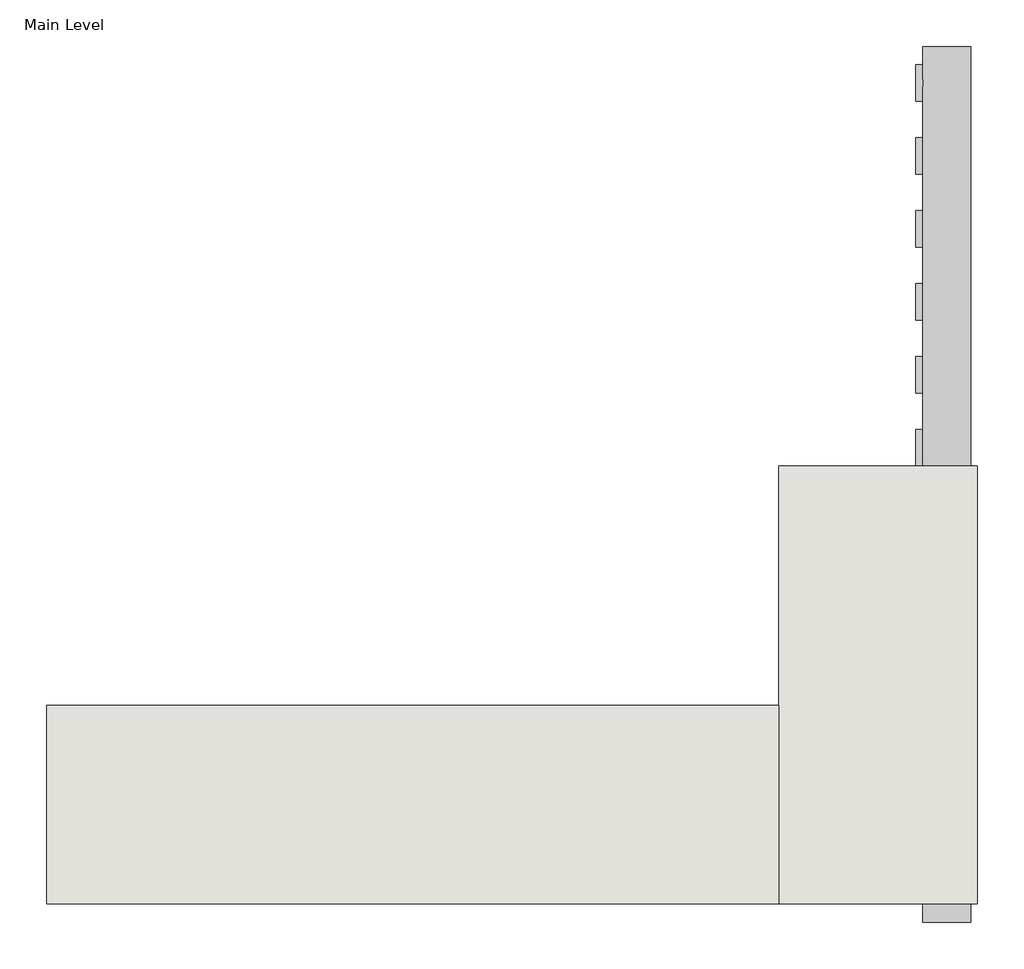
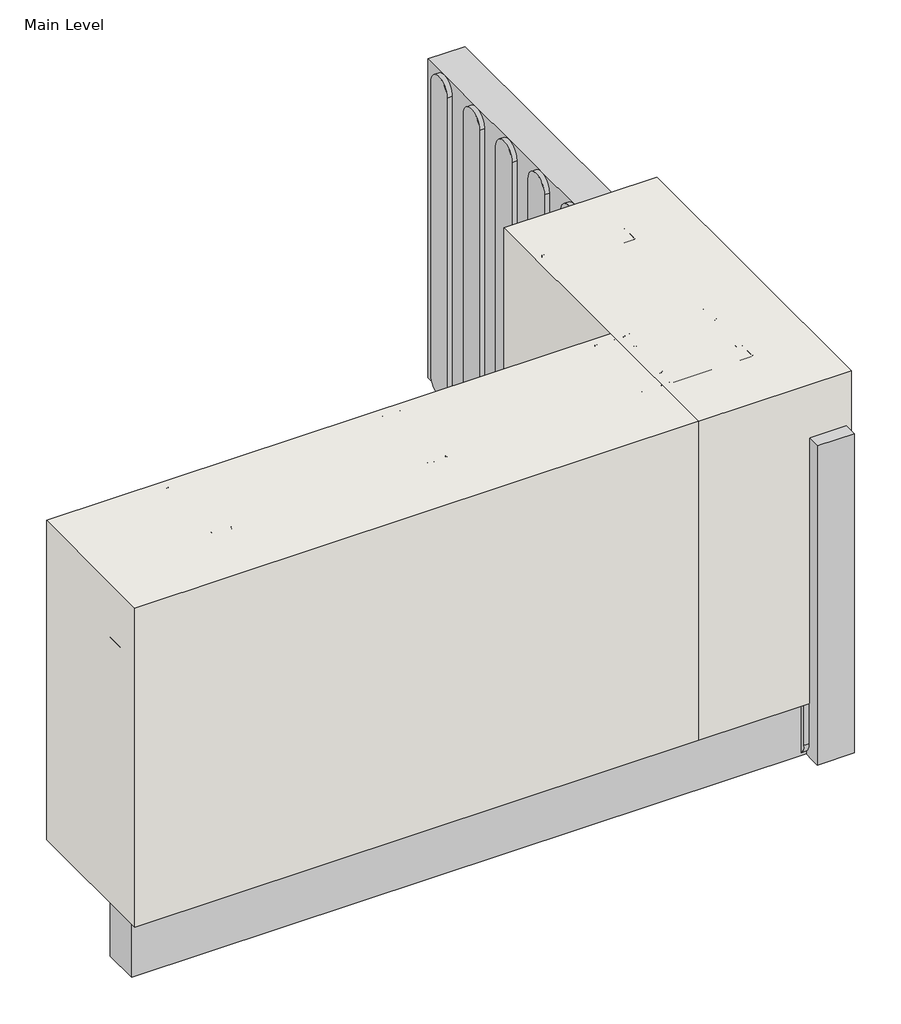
# One storey, incomplete: 30 proxies, 2 walls.
"""IFC4 building model written with IfcOpenShell, lengths in millimetres."""

from ifc_helpers import new_model, si_unit, origin, origin_with_axes, place, context, project, spatial, polyline, outline, extrude, faceted_brep, transform, mapped, element, save
from components import generic_models_0ed8512b, generic_models_91a65217, generic_models_599f1aef, generic_models_008e5ede, generic_models_03ec6e0e, proxy_50213ae0, proxy_63d6b373, proxy_d4c17246

model = new_model("IFC4")

# Units and contexts
model_context = context("Model", 3, world=origin())
ifc_project = project(units=[si_unit("LENGTHUNIT", "METRE", prefix="MILLI")], contexts=[model_context])

# Site, building, storey
site = spatial("IfcSite", under=ifc_project)
building = spatial("IfcBuilding", under=site)
storey = spatial("IfcBuildingStorey", under=building, Name="Main Level", Elevation=0.0)

# Proxies
placement = place(None, origin())
generic_models_shape = generic_models_0ed8512b(model_context)
element("IfcBuildingElementProxy", 1, Name="Durabond Generic Model Insulation Adhesive Flat : Durabond Generic Model Insulation Adhesive Flat", ObjectType="Durabond Generic Model Insulation Adhesive Flat : Durabond Generic Model Insulation Adhesive Flat", at=placement, inside=storey, context=model_context, shape_type="MappedRepresentation", body=[
    mapped(generic_models_shape, transform((26266.1289273, 627.6316297, 0.0), x_axis=(1.0, 0.0, 0.0), y_axis=(0.0, 1.0, 0.0), z_axis=(0.0, 0.0, 1.0))),
])
element("IfcBuildingElementProxy", 2, Name="Durabond Generic Model Insulation Adhesive Flat : Durabond Generic Model Insulation Adhesive Flat", ObjectType="Durabond Generic Model Insulation Adhesive Flat : Durabond Generic Model Insulation Adhesive Flat", at=placement, inside=storey, context=model_context, shape_type="MappedRepresentation", body=[
    mapped(generic_models_shape, transform((26367.7289273, 627.6316297, 0.0), x_axis=(1.0, 0.0, 0.0), y_axis=(0.0, 1.0, 0.0), z_axis=(0.0, 0.0, 1.0))),
])
element("IfcBuildingElementProxy", 3, Name="Durabond Generic Model Insulation Adhesive Flat : Durabond Generic Model Insulation Adhesive Flat", ObjectType="Durabond Generic Model Insulation Adhesive Flat : Durabond Generic Model Insulation Adhesive Flat", at=placement, inside=storey, context=model_context, shape_type="MappedRepresentation", body=[
    mapped(generic_models_shape, transform((26469.3289273, 627.6316297, 0.0), x_axis=(1.0, 0.0, 0.0), y_axis=(0.0, 1.0, 0.0), z_axis=(0.0, 0.0, 1.0))),
])
element("IfcBuildingElementProxy", 4, Name="Durabond Generic Model Insulation Adhesive Flat : Durabond Generic Model Insulation Adhesive Flat", ObjectType="Durabond Generic Model Insulation Adhesive Flat : Durabond Generic Model Insulation Adhesive Flat", at=placement, inside=storey, context=model_context, shape_type="MappedRepresentation", body=[
    mapped(generic_models_shape, transform((26570.9289273, 627.6316297, 0.0), x_axis=(1.0, 0.0, 0.0), y_axis=(0.0, 1.0, 0.0), z_axis=(0.0, 0.0, 1.0))),
])
element("IfcBuildingElementProxy", 5, Name="Durabond Generic Model Insulation Adhesive Flat : Durabond Generic Model Insulation Adhesive Flat", ObjectType="Durabond Generic Model Insulation Adhesive Flat : Durabond Generic Model Insulation Adhesive Flat", at=placement, inside=storey, context=model_context, shape_type="MappedRepresentation", body=[
    mapped(generic_models_shape, transform((26672.5289273, 627.6316297, 0.0), x_axis=(1.0, 0.0, 0.0), y_axis=(0.0, 1.0, 0.0), z_axis=(0.0, 0.0, 1.0))),
])
element("IfcBuildingElementProxy", 6, Name="Durabond Generic Model Insulation Adhesive Flat : Durabond Generic Model Insulation Adhesive Flat", ObjectType="Durabond Generic Model Insulation Adhesive Flat : Durabond Generic Model Insulation Adhesive Flat", at=placement, inside=storey, context=model_context, shape_type="MappedRepresentation", body=[
    mapped(generic_models_shape, transform((26774.1289273, 627.6316297, 0.0), x_axis=(1.0, 0.0, 0.0), y_axis=(0.0, 1.0, 0.0), z_axis=(0.0, 0.0, 1.0))),
])
element("IfcBuildingElementProxy", 7, Name="Durabond Generic Model Insulation Adhesive Flat : Durabond Generic Model Insulation Adhesive Flat", ObjectType="Durabond Generic Model Insulation Adhesive Flat : Durabond Generic Model Insulation Adhesive Flat", at=placement, inside=storey, context=model_context, shape_type="MappedRepresentation", body=[
    mapped(generic_models_shape, transform((26875.7289273, 627.6316297, 0.0), x_axis=(1.0, 0.0, 0.0), y_axis=(0.0, 1.0, 0.0), z_axis=(0.0, 0.0, 1.0))),
])
element("IfcBuildingElementProxy", 8, Name="Durabond Generic Model Insulation Adhesive Flat : Durabond Generic Model Insulation Adhesive Flat", ObjectType="Durabond Generic Model Insulation Adhesive Flat : Durabond Generic Model Insulation Adhesive Flat", at=placement, inside=storey, context=model_context, shape_type="MappedRepresentation", body=[
    mapped(generic_models_shape, transform((26977.3289273, 627.6316297, 0.0), x_axis=(1.0, 0.0, 0.0), y_axis=(0.0, 1.0, 0.0), z_axis=(0.0, 0.0, 1.0))),
])
element("IfcBuildingElementProxy", 9, Name="Durabond Generic Model Insulation Adhesive Flat : Durabond Generic Model Insulation Adhesive Flat", ObjectType="Durabond Generic Model Insulation Adhesive Flat : Durabond Generic Model Insulation Adhesive Flat", at=placement, inside=storey, context=model_context, shape_type="MappedRepresentation", body=[
    mapped(generic_models_shape, transform((27078.9289273, 627.6316297, 0.0), x_axis=(1.0, 0.0, 0.0), y_axis=(0.0, 1.0, 0.0), z_axis=(0.0, 0.0, 1.0))),
])
element("IfcBuildingElementProxy", 10, Name="Durabond Generic Model Insulation Adhesive Flat : Durabond Generic Model Insulation Adhesive Flat", ObjectType="Durabond Generic Model Insulation Adhesive Flat : Durabond Generic Model Insulation Adhesive Flat", at=placement, inside=storey, context=model_context, shape_type="MappedRepresentation", body=[
    mapped(generic_models_shape, transform((27180.5289273, 627.6316297, 0.0), x_axis=(1.0, 0.0, 0.0), y_axis=(0.0, 1.0, 0.0), z_axis=(0.0, 0.0, 1.0))),
])
element("IfcBuildingElementProxy", 11, Name="Durabond Generic Model Insulation Adhesive Flat : Durabond Generic Model Insulation Adhesive Flat", ObjectType="Durabond Generic Model Insulation Adhesive Flat : Durabond Generic Model Insulation Adhesive Flat", at=placement, inside=storey, context=model_context, shape_type="MappedRepresentation", body=[
    mapped(generic_models_shape, transform((27282.1289273, 627.6316297, 0.0), x_axis=(1.0, 0.0, 0.0), y_axis=(0.0, 1.0, 0.0), z_axis=(0.0, 0.0, 1.0))),
])
element("IfcBuildingElementProxy", 12, Name="Durabond Generic Model Insulation Adhesive Flat : Durabond Generic Model Insulation Adhesive Flat", ObjectType="Durabond Generic Model Insulation Adhesive Flat : Durabond Generic Model Insulation Adhesive Flat", at=placement, inside=storey, context=model_context, shape_type="MappedRepresentation", body=[
    mapped(generic_models_shape, transform((27383.7289273, 627.6316297, 0.0), x_axis=(1.0, 0.0, 0.0), y_axis=(0.0, 1.0, 0.0), z_axis=(0.0, 0.0, 1.0))),
])
generic_models_2_shape = generic_models_91a65217(model_context)
element("IfcBuildingElementProxy", 13, Name="Durabond Generic Model Insulation Adhesive Flat : Durabond Generic Model Insulation Adhesive Flat", ObjectType="Durabond Generic Model Insulation Adhesive Flat : Durabond Generic Model Insulation Adhesive Flat", at=placement, inside=storey, context=model_context, shape_type="MappedRepresentation", body=[
    mapped(generic_models_2_shape, transform((27421.8289273, 1072.1316297, 0.0), x_axis=(0.0, -1.0, 0.0), y_axis=(1.0, 0.0, 0.0), z_axis=(0.0, 0.0, 1.0))),
])
element("IfcBuildingElementProxy", 14, Name="Durabond Generic Model Insulation Adhesive Flat : Durabond Generic Model Insulation Adhesive Flat", ObjectType="Durabond Generic Model Insulation Adhesive Flat : Durabond Generic Model Insulation Adhesive Flat", at=placement, inside=storey, context=model_context, shape_type="MappedRepresentation", body=[
    mapped(generic_models_2_shape, transform((27421.8289273, 970.5316297, 0.0), x_axis=(0.0, -1.0, 0.0), y_axis=(1.0, 0.0, 0.0), z_axis=(0.0, 0.0, 1.0))),
])
element("IfcBuildingElementProxy", 15, Name="Durabond Generic Model Insulation Adhesive Flat : Durabond Generic Model Insulation Adhesive Flat", ObjectType="Durabond Generic Model Insulation Adhesive Flat : Durabond Generic Model Insulation Adhesive Flat", at=placement, inside=storey, context=model_context, shape_type="MappedRepresentation", body=[
    mapped(generic_models_2_shape, transform((27421.8289273, 868.9316297, 0.0), x_axis=(0.0, -1.0, 0.0), y_axis=(1.0, 0.0, 0.0), z_axis=(0.0, 0.0, 1.0))),
])
element("IfcBuildingElementProxy", 16, Name="Durabond Generic Model Insulation Adhesive Flat : Durabond Generic Model Insulation Adhesive Flat", ObjectType="Durabond Generic Model Insulation Adhesive Flat : Durabond Generic Model Insulation Adhesive Flat", at=placement, inside=storey, context=model_context, shape_type="MappedRepresentation", body=[
    mapped(generic_models_2_shape, transform((27421.8289273, 767.3316297, 0.0), x_axis=(0.0, -1.0, 0.0), y_axis=(1.0, 0.0, 0.0), z_axis=(0.0, 0.0, 1.0))),
])
element("IfcBuildingElementProxy", 17, Name="Durabond Generic Model Insulation Adhesive Flat : Durabond Generic Model Insulation Adhesive Flat", ObjectType="Durabond Generic Model Insulation Adhesive Flat : Durabond Generic Model Insulation Adhesive Flat", at=placement, inside=storey, context=model_context, shape_type="MappedRepresentation", body=[
    mapped(generic_models_2_shape, transform((27421.8289273, 665.7316297, 0.0), x_axis=(0.0, -1.0, 0.0), y_axis=(1.0, 0.0, 0.0), z_axis=(0.0, 0.0, 1.0))),
])
generic_models_3_shape = generic_models_599f1aef(model_context)
element("IfcBuildingElementProxy", 18, Name="CRAi Generic Model Metal Stud Array : CRAi Generic Model Metal Stud Array", ObjectType="CRAi Generic Model Metal Stud Array : CRAi Generic Model Metal Stud Array", at=placement, inside=storey, context=model_context, shape_type="MappedRepresentation", body=[
    mapped(generic_models_3_shape, transform((27323.4039273, 853.0566297, 0.0), x_axis=(0.0, 1.0, 0.0), y_axis=(-1.0, 0.0, 0.0), z_axis=(0.0, 0.0, 1.0))),
])
generic_models_4_shape = generic_models_008e5ede(model_context)
element("IfcBuildingElementProxy", 19, Name="CRAi Generic Model Metal Stud Array : CRAi Generic Model Metal Stud Array", ObjectType="CRAi Generic Model Metal Stud Array : CRAi Generic Model Metal Stud Array", at=placement, inside=storey, context=model_context, shape_type="MappedRepresentation", body=[
    mapped(generic_models_4_shape, transform((26828.1039273, 726.0566297, 0.0), x_axis=(-1.0, 0.0, 0.0), y_axis=(0.0, -1.0, 0.0), z_axis=(0.0, 0.0, 1.0))),
])
generic_models_5_shape = generic_models_03ec6e0e(model_context)
element("IfcBuildingElementProxy", 20, Name="CRAi Generic Model Drywall Screw : CRAi Generic Model Drywall Screw", ObjectType="CRAi Generic Model Drywall Screw : CRAi Generic Model Drywall Screw", at=placement, inside=storey, context=model_context, shape_type="MappedRepresentation", body=[
    mapped(generic_models_5_shape, transform((27215.4539273, 633.9816297, 584.2), x_axis=(1.0, 0.0, 0.0), y_axis=(0.0, 0.0, 1.0), z_axis=(0.0, -1.0, 0.0))),
])
element("IfcBuildingElementProxy", 21, Name="CRAi Generic Model Drywall Screw : CRAi Generic Model Drywall Screw", ObjectType="CRAi Generic Model Drywall Screw : CRAi Generic Model Drywall Screw", at=placement, inside=storey, context=model_context, shape_type="MappedRepresentation", body=[
    mapped(generic_models_5_shape, transform((26828.1039273, 633.9816297, 584.2), x_axis=(1.0, 0.0, 0.0), y_axis=(0.0, 0.0, 1.0), z_axis=(0.0, -1.0, 0.0))),
])
element("IfcBuildingElementProxy", 22, Name="CRAi Generic Model Drywall Screw : CRAi Generic Model Drywall Screw", ObjectType="CRAi Generic Model Drywall Screw : CRAi Generic Model Drywall Screw", at=placement, inside=storey, context=model_context, shape_type="MappedRepresentation", body=[
    mapped(generic_models_5_shape, transform((26440.7539273, 633.9816297, 584.2), x_axis=(1.0, 0.0, 0.0), y_axis=(0.0, 0.0, 1.0), z_axis=(0.0, -1.0, 0.0))),
])
element("IfcBuildingElementProxy", 23, Name="CRAi Generic Model Drywall Screw : CRAi Generic Model Drywall Screw", ObjectType="CRAi Generic Model Drywall Screw : CRAi Generic Model Drywall Screw", at=placement, inside=storey, context=model_context, shape_type="MappedRepresentation", body=[
    mapped(generic_models_5_shape, transform((27415.4789273, 1037.2066297, 584.2), x_axis=(0.0, 1.0, 0.0), y_axis=(0.0, 0.0, 1.0), z_axis=(1.0, 0.0, 0.0))),
])
element("IfcBuildingElementProxy", 24, Name="CRAi Generic Model Drywall Screw : CRAi Generic Model Drywall Screw", ObjectType="CRAi Generic Model Drywall Screw : CRAi Generic Model Drywall Screw", at=placement, inside=storey, context=model_context, shape_type="MappedRepresentation", body=[
    mapped(generic_models_5_shape, transform((27415.4789273, 783.2066297, 584.2), x_axis=(0.0, 1.0, 0.0), y_axis=(0.0, 0.0, 1.0), z_axis=(1.0, 0.0, 0.0))),
])
element("IfcBuildingElementProxy", 25, Name="CRAi Generic Model Drywall Screw : CRAi Generic Model Drywall Screw", ObjectType="CRAi Generic Model Drywall Screw : CRAi Generic Model Drywall Screw", at=placement, inside=storey, context=model_context, shape_type="MappedRepresentation", body=[
    mapped(generic_models_5_shape, transform((27415.4789273, 668.9066297, 584.2), x_axis=(0.0, 1.0, 0.0), y_axis=(0.0, 0.0, 1.0), z_axis=(1.0, 0.0, 0.0))),
])
element("IfcBuildingElementProxy", 26, Name="CRAi Generic Model Drywall Screw : CRAi Generic Model Drywall Screw", ObjectType="CRAi Generic Model Drywall Screw : CRAi Generic Model Drywall Screw", at=placement, inside=storey, context=model_context, shape_type="MappedRepresentation", body=[
    mapped(generic_models_5_shape, transform((27380.5539273, 633.9816297, 584.2), x_axis=(1.0, 0.0, 0.0), y_axis=(0.0, 0.0, 1.0), z_axis=(0.0, -1.0, 0.0))),
])
proxy_shape = proxy_50213ae0(model_context)
element("IfcBuildingElementProxy", 27, Name="Durabond Generic Model Quantum Select Insulation Board : 3\"", ObjectType="Durabond Generic Model Quantum Select Insulation Board : 3\"", at=placement, inside=storey, context=model_context, shape_type="MappedRepresentation", body=[
    mapped(proxy_shape, transform((26824.9289273, 624.4566297, 203.2), x_axis=(1.0, 0.0, 0.0), y_axis=(0.0, 0.0, 1.0), z_axis=(0.0, -1.0, 0.0))),
])
element("IfcBuildingElementProxy", 28, Name="Durabond Generic Model Quantum Select Insulation Board : 3\"", ObjectType="Durabond Generic Model Quantum Select Insulation Board : 3\"", at=placement, inside=storey, context=model_context, shape_type="MappedRepresentation", body=[
    mapped(proxy_shape, transform((27425.0039273, 1122.9316297, 203.2), x_axis=(0.0, 1.0, 0.0), y_axis=(0.0, 0.0, 1.0), z_axis=(1.0, 0.0, 0.0))),
])
proxy_2_shape = proxy_63d6b373(model_context)
element("IfcBuildingElementProxy", 29, Name="Durabond Generic Model Corner 90 Membrane : 4\" Barrier Seam Tape", ObjectType="Durabond Generic Model Corner 90 Membrane : 4\" Barrier Seam Tape", at=placement, inside=storey, context=model_context, shape_type="MappedRepresentation", body=[
    mapped(proxy_2_shape, transform((27415.4789273, 633.9816297, 0.0), x_axis=(1.0, 0.0, 0.0), y_axis=(0.0, 1.0, 0.0), z_axis=(0.0, 0.0, 1.0))),
])
proxy_3_shape = proxy_d4c17246(model_context)
element("IfcBuildingElementProxy", 30, Name="CRAi Generic Model Metal Stud : Metal Framing Stud - 1\" x 3.5\"", ObjectType="CRAi Generic Model Metal Stud : Metal Framing Stud - 1\" x 3.5\"", at=placement, inside=storey, context=model_context, shape_type="MappedRepresentation", body=[
    mapped(proxy_3_shape, transform((27323.4039273, 783.2066297, 0.0), x_axis=(0.0, 1.0, 0.0), y_axis=(-1.0, 0.0, 0.0), z_axis=(0.0, 0.0, 1.0))),
])

# Walls
element("IfcWall", 31, ObjectType="189mm (7.5”) EIFS Field Applied on Mtl. Stud Layer - 50mm Grooved Insulation Board Metal Stud Wall", at=placement, inside=storey, context=model_context, shape_type="SweptSolid", body=[
    extrude(outline(polyline([(27234.5039273, 538.7316297), (26215.3289273, 538.7316297), (26215.3289273, 814.9566297), (27234.5039273, 814.9566297), (27234.5039273, 538.7316297)])), origin_with_axes(), (0.0, 0.0, 1.0), 609.6),
])
element("IfcWall", 32, ObjectType="189mm (7.5”) EIFS Field Applied on Mtl. Stud Layer - 50mm Grooved Insulation Board Metal Stud Wall", at=placement, inside=storey, context=model_context, shape_type="Brep", body=[
    faceted_brep([(27510.7289273, 538.7316297, 0.0), (27510.7289273, 1148.3316297, 0.0), (27510.7289273, 1148.3316297, 609.6), (27510.7289273, 538.7316297, 609.6), (27234.5039273, 538.7316297, 0.0), (27234.5039273, 538.7316297, 609.6), (27234.5039273, 814.9566297, 609.6), (27234.5039273, 1148.3316297, 609.6), (27234.5039273, 1148.3316297, 0.0), (27234.5039273, 814.9566297, 0.0)], [[[0, 1, 2, 3]], [[4, 5, 6, 7, 8, 9]], [[1, 0, 4, 9, 8]], [[2, 1, 8, 7]], [[3, 2, 7, 6, 5]], [[0, 3, 5, 4]]]),
])

save(model, "model.ifc")
